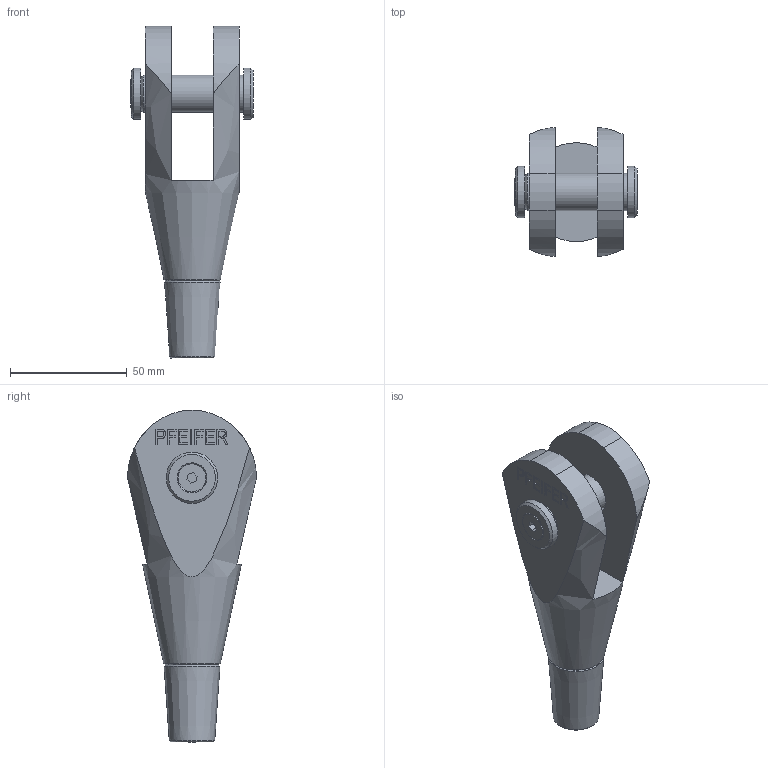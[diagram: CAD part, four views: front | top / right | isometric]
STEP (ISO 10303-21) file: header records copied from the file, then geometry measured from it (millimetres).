
FILE_DESCRIPTION(/* description */ (''),/* implementation_level */ '2;1');
FILE_NAME(/* name */ 'C:\Vault_WS\Designs\520-016-GAK.stp',/* time_stamp */ '2020-06-25T07:45:38+02:00',/* author */ ('schwarz'),/* organization */ (''),/* preprocessor_version */ 'ST-DEVELOPER v16.1',/* originating_system */ 'Autodesk Inventor 2016',/* authorisation */ '');
FILE_SCHEMA (('AUTOMOTIVE_DESIGN { 1 0 10303 214 3 1 1 }'));
Length unit declared in the file: centimetre
Products named in the file (1): 520-016-GAK-KMU-Kunde
Bounding box: 52.21 x 55.15 x 142 mm (x, y, z)
Volume: 109985.8 mm3; surface area: 28413.8 mm2
Topology: 2 solids, 3 shells, 186 faces, 479 edges, 317 vertices
Faces by surface type: plane 137, bspline 21, cylinder 16, cone 11, torus 1
Full cylindrical faces by diameter (mm): 4.917 x1, 6 x1, 6.8 x1, 12 x1, 16 x1, 16.8 x1, 18 x2, 22 x2
Entity records: 5759 total; most frequent: CARTESIAN_POINT 1252, ORIENTED_EDGE 900, DIRECTION 774, EDGE_CURVE 450, LINE 354, VECTOR 354, VERTEX_POINT 310, EDGE_LOOP 230
